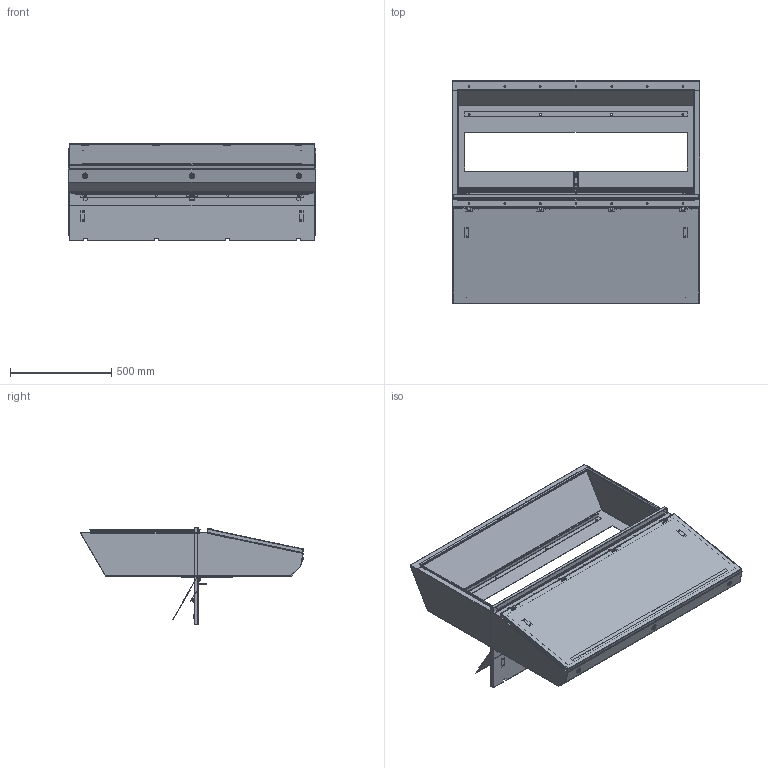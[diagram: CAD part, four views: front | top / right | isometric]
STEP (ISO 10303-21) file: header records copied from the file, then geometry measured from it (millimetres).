
FILE_DESCRIPTION( ( 'Unknown' ), '1' );
FILE_NAME( 'Q:/2000 SERIES/DESK UNITS/WEB DRAWINGS/STEP/2CSD84843.stp', 'Unknown', ( 'Unknown' ), ( 'Unknown' ), 'XStep 1.0', 'Unknown', ' ' );
FILE_SCHEMA( ( 'CONFIG_CONTROL_DESIGN' ) );
Length unit declared in the file: millimetre
Products named in the file (32): Assem1; Assem2; Assem3; Assem4; Assem5; Assem6; Assem7; Assem8; Assem9; 1; 2; 3; 4; 5; 6; 7; 8; 9; 10; 11; 12; 13; 14; 15; 16; 17; 18; 19; 20; 21; 22; 23
Bounding box: 1219.2 x 1099.93 x 482.6 mm (x, y, z)
Volume: 16473664.3 mm3; surface area: 18006071.1 mm2
Topology: 129 solids, 129 shells, 3065 faces, 7620 edges, 4939 vertices
Faces by surface type: plane 2000, cylinder 868, bspline 84, cone 58, torus 45, sphere 10
Full cylindrical faces by diameter (mm): 3.175 x20, 4.648 x10, 4.763 x20, 4.801 x12, 5 x11, 5.537 x30, 5.969 x6, 6 x5, 6.096 x6, 6.299 x5, 6.35 x22, 7.137 x18, 7.925 x11, 7.938 x12, 8.331 x5, 9.804 x15, 9.83 x10, 9.931 x9, 10.312 x5, 11.1 x5, 12.7 x20, 12.751 x5, 13.335 x5, 15.875 x5, 16.002 x5, 17.45 x5, 19.5 x5, 19.939 x5, 25.4 x5
Entity records: 25003 total; most frequent: CARTESIAN_POINT 5389, DIRECTION 3721, ORIENTED_EDGE 3650, EDGE_CURVE 1825, LINE 1323, VECTOR 1323, VERTEX_POINT 1211, AXIS2_PLACEMENT_3D 1199
